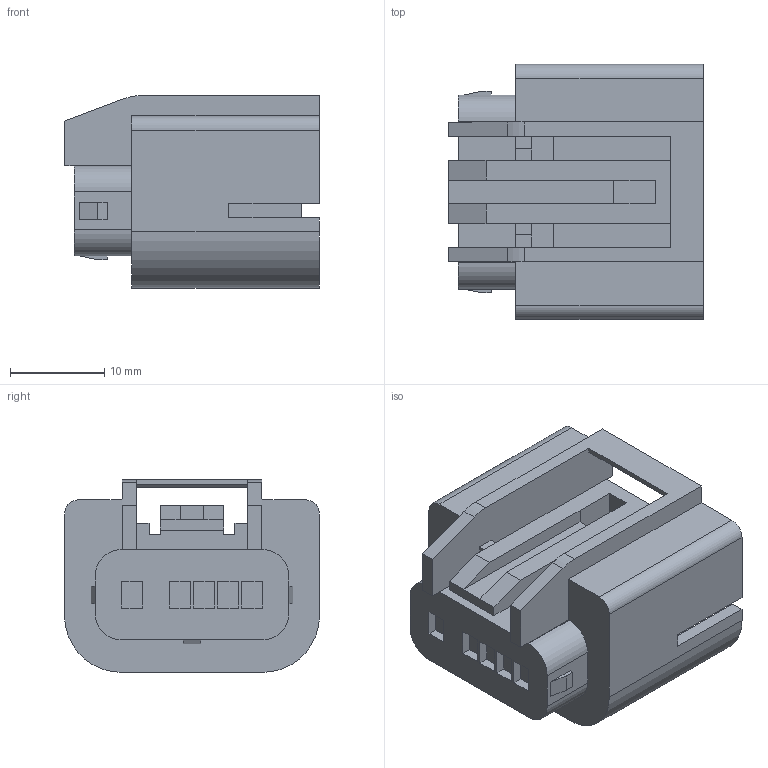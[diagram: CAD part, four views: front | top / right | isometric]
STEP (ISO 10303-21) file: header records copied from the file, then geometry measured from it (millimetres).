
FILE_DESCRIPTION(('CATIA V5 STEP Exchange'),'2;1');
FILE_NAME('N:\C-DAM_MyDesk\ENV\900093\6189-7001.stp','2013-06-13T07:19:53+00:00',('none'),('none'),'CATIA Version 5 Release 20 SP 4 (IN-10)','CATIA V5 STEP AP203','none');
FILE_SCHEMA(('CONFIG_CONTROL_DESIGN'));
Length unit declared in the file: millimetre
Products named in the file (1): 6189-7001
Bounding box: 27 x 27 x 20.4 mm (x, y, z)
Volume: 6790.6 mm3; surface area: 5874 mm2
Topology: 1 solids, 1 shells, 168 faces, 451 edges, 298 vertices
Faces by surface type: plane 148, cylinder 20
Entity records: 4926 total; most frequent: ORIENTED_EDGE 902, CARTESIAN_POINT 867, DIRECTION 685, EDGE_CURVE 451, VECTOR 411, LINE 411, VERTEX_POINT 298, EDGE_LOOP 185
